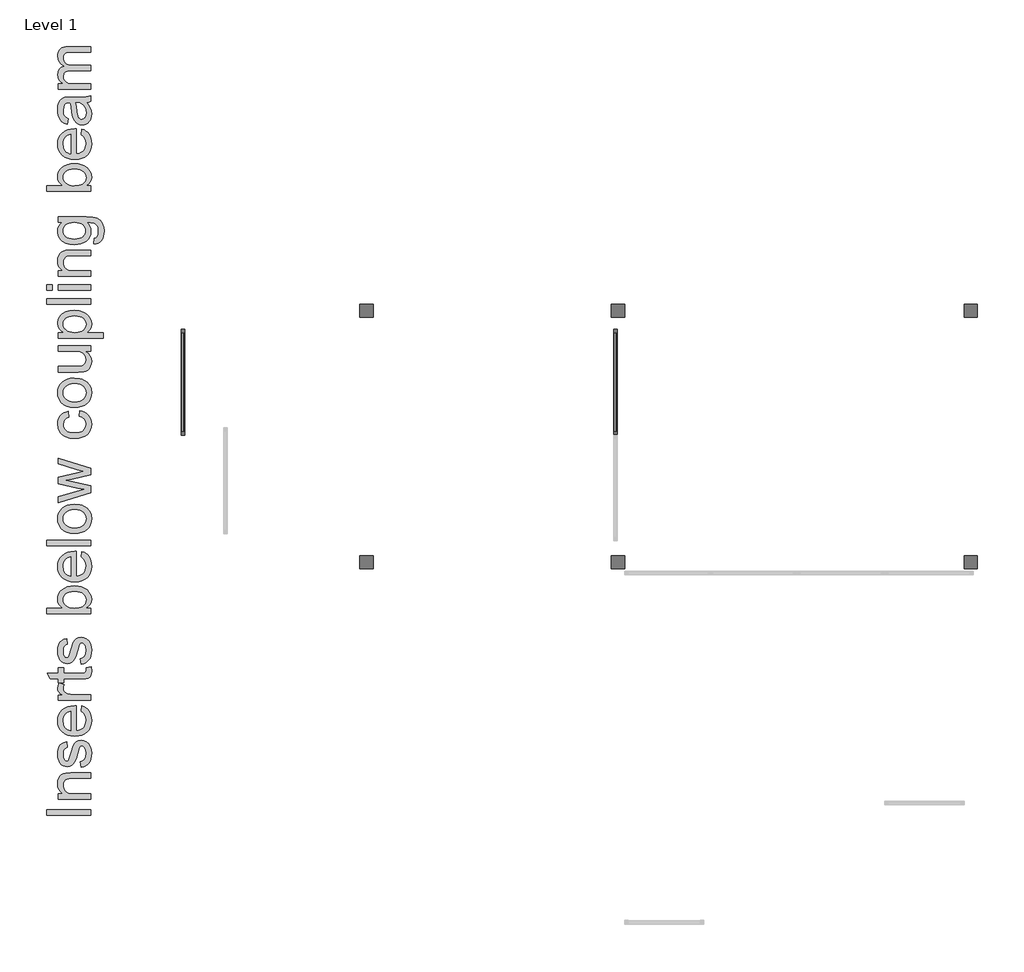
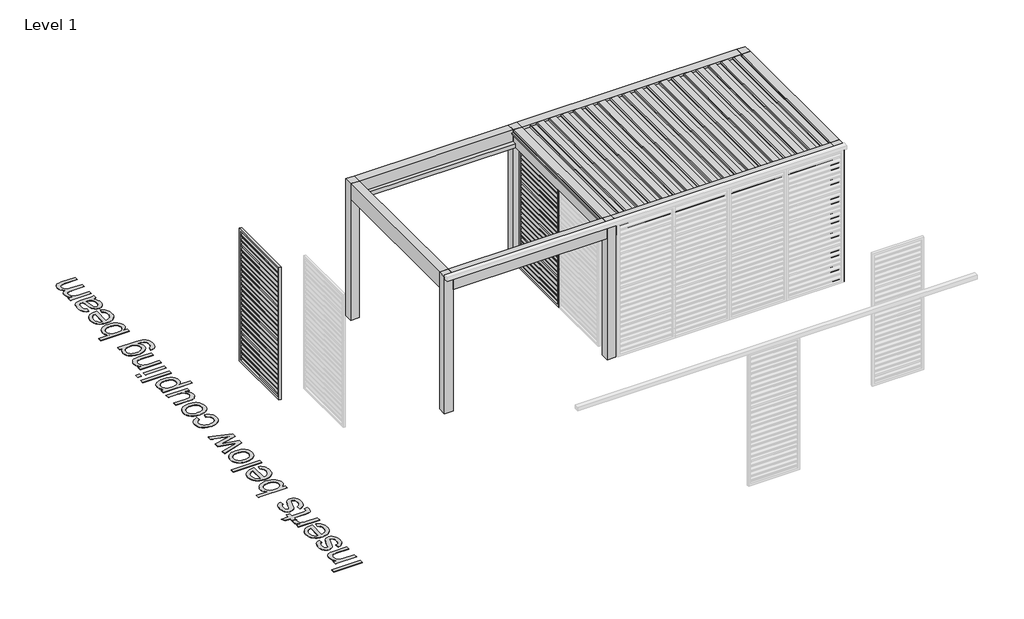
# One storey, part 31 of 80: 4 proxies.
"""IFC4 building model written with IfcOpenShell, lengths in millimetres."""

from ifc_helpers import new_model, si_unit, origin, origin_with_axes, place, context, project, spatial, polyline, outline, extrude, transform, mapped, element, save
from components import generic_models_f342dfb5, generic_models_106a7d22

model = new_model("IFC4")

# Units and contexts
model_context = context("Model", 3, world=origin())
ifc_project = project(units=[si_unit("LENGTHUNIT", "METRE", prefix="MILLI")], contexts=[model_context])

# Site, building, storey
site = spatial("IfcSite", under=ifc_project)
building = spatial("IfcBuilding", under=site)
storey = spatial("IfcBuildingStorey", under=building, Name="Level 1", Elevation=0.0)

# Proxies
placement = place(None, origin())
generic_models_shape = generic_models_f342dfb5(model_context)
element("IfcBuildingElementProxy", 1, Name="Renson_Amani_Patio_Cover : Renson_Amani_Patio_Cover", ObjectType="Renson_Amani_Patio_Cover : Renson_Amani_Patio_Cover", at=placement, inside=storey, context=model_context, shape_type="MappedRepresentation", body=[
    mapped(generic_models_shape, transform((446460.5749426, -39559.318181, 0.0), x_axis=(1.0, 0.0, 0.0), y_axis=(0.0, 1.0, 0.0), z_axis=(0.0, 0.0, 1.0))),
])
generic_models_2_shape = generic_models_106a7d22(model_context)
element("IfcBuildingElementProxy", 2, Name="Renson_Amani_Loggia_Paro_Aluminium_Fix : Renson_Amani_Loggia_Paro_Aluminium_Fix", ObjectType="Renson_Amani_Loggia_Paro_Aluminium_Fix : Renson_Amani_Loggia_Paro_Aluminium_Fix", at=placement, inside=storey, context=model_context, shape_type="MappedRepresentation", body=[
    mapped(generic_models_2_shape, transform((442956.3699543, -38944.9696571, 0.0), x_axis=(0.0, -1.0, 0.0), y_axis=(1.0, 0.0, 0.0), z_axis=(0.0, 0.0, 1.0))),
])
element("IfcBuildingElementProxy", 3, Name="Renson_Amani_Loggia_Paro_Aluminium_Fix : Renson_Amani_Loggia_Paro_Aluminium_Fix", ObjectType="Renson_Amani_Loggia_Paro_Aluminium_Fix : Renson_Amani_Loggia_Paro_Aluminium_Fix", at=placement, inside=storey, context=model_context, shape_type="MappedRepresentation", body=[
    mapped(generic_models_2_shape, transform((447856.3699543, -38944.9696571, 0.0), x_axis=(0.0, -1.0, 0.0), y_axis=(1.0, 0.0, 0.0), z_axis=(0.0, 0.0, 1.0))),
])
element("IfcBuildingElementProxy", 4, Name="500mm Arial", ObjectType="500mm Arial", at=placement, inside=storey, context=model_context, shape_type="SweptSolid", body=[
    extrude(outline(polyline([(441912.2046948, -43851.4920703), (441409.9231441, -43851.4920703), (441409.9231441, -43788.7068764), (441912.2046948, -43788.7068764), (441912.2046948, -43851.4920703)])), origin_with_axes(), (0.0, 0.0, 1.0), 5.0),
    extrude(outline(polyline([(441912.2046948, -43670.984638), (441543.341681, -43670.984638), (441543.341681, -43608.1994441), (441594.8451603, -43608.1994441), (441568.8788228, -43586.3871075), (441550.3314389, -43560.1908438), (441539.2030085, -43529.6106529), (441535.4935317, -43494.646535), (441538.482573, -43463.6984621), (441547.4496966, -43435.3562201), (441561.2759282, -43411.7198019), (441578.8422935, -43394.8892006), (441600.1028071, -43383.4695303), (441625.0114839, -43376.0659052), (441685.7120131, -43372.7549672), (441912.2046948, -43372.7549672), (441912.2046948, -43435.5401611), (441694.173299, -43435.5401611), (441661.7077129, -43437.3489142), (441638.6231177, -43442.7751736), (441622.0837564, -43452.7846296), (441609.2538718, -43468.3429723), (441601.0225121, -43488.2852421), (441598.2787256, -43511.4464794), (441599.8192314, -43530.5111974), (441604.440749, -43548.2193505), (441612.1432783, -43564.5709388), (441622.9268193, -43579.5659622), (441638.0176453, -43592.0931105), (441658.6420296, -43601.0410736), (441684.7999723, -43606.4098515), (441716.4914734, -43608.1994441), (441912.2046948, -43608.1994441), (441912.2046948, -43670.984638)])), origin_with_axes(), (0.0, 0.0, 1.0), 5.0),
    extrude(outline(polyline([(441802.3306056, -43309.9697734), (441794.4824563, -43247.1845795), (441821.337842, -43237.2824225), (441841.0808424, -43218.1219019), (441853.2209482, -43189.5803905), (441857.2676502, -43151.5352608), (441853.5581734, -43113.9499836), (441842.4297431, -43087.5237936), (441826.3042489, -43071.8888088), (441807.6035808, -43066.6771472), (441791.6007141, -43071.9194657), (441779.3992945, -43087.646421), (441761.4957041, -43152.2710248), (441744.9256859, -43209.5686455), (441730.7775575, -43246.8166975), (441715.3418421, -43270.7443556), (441694.909063, -43288.0807947), (441670.7821355, -43298.6114168), (441644.263975, -43302.1216241), (441619.9377781, -43299.3011955), (441597.4816479, -43290.8399096), (441577.7846328, -43277.5041873), (441561.7357807, -43260.0604494), (441551.6343543, -43242.7240103), (441543.15774, -43220.1452529), (441537.4095838, -43194.0409596), (441535.4935317, -43166.1279133), (441538.5745435, -43125.262355), (441547.8175786, -43089.7310856), (441562.3182606, -43061.1589173), (441581.1722128, -43041.1706622), (441605.7743212, -43027.9269104), (441637.5194717, -43019.5882519), (441645.367621, -43082.3734457), (441625.6092921, -43090.298237), (441610.7253998, -43105.9792071), (441601.3903941, -43129.56964), (441598.2787256, -43161.22282), (441601.2524384, -43197.2752555), (441610.1735768, -43221.3102125), (441623.0494466, -43234.8298759), (441637.8873537, -43239.3364303), (441647.5442561, -43237.4663635), (441656.1588262, -43231.8561631), (441663.8536912, -43222.2605744), (441670.0157146, -43208.4343427), (441683.3820938, -43154.3556894), (441712.9352807, -43062.2012496), (441727.0680807, -43037.8597243), (441746.4125423, -43019.4043109), (441771.0299792, -43007.7700428), (441800.9817049, -43003.8919534), (441831.9451062, -43008.4444931), (441861.0690975, -43022.1021122), (441886.0697447, -43044.3436444), (441904.6631139, -43074.6479238), (441916.2054115, -43111.2521823), (441920.052844, -43152.3936521), (441918.1981056, -43186.1851462), (441912.6338905, -43215.7000121), (441903.3601985, -43240.9382498), (441890.3770298, -43261.8998593), (441873.7456979, -43279.0217005), (441853.5275166, -43292.7406333), (441829.7224858, -43303.0566576), (441802.3306056, -43309.9697734)])), origin_with_axes(), (0.0, 0.0, 1.0), 5.0),
    extrude(outline(polyline([(441802.3306056, -42675.0054497), (441810.1787548, -42613.4465292), (441834.8345127, -42622.8850016), (441856.562543, -42635.6267478), (441875.3628458, -42651.6717677), (441891.2354211, -42671.0200614), (441903.8430436, -42693.4723594), (441912.8484883, -42718.8293924), (441918.2517551, -42747.0911602), (441920.052844, -42778.257663), (441916.9450076, -42817.2148335), (441907.6214983, -42851.9260326), (441892.0823161, -42882.3912603), (441870.327461, -42908.6105166), (441842.9624055, -42929.6947535), (441810.5926221, -42944.7549227), (441773.2181106, -42953.7910242), (441730.8388712, -42956.803058), (441687.0225927, -42953.7603673), (441648.4026474, -42944.6322953), (441614.9790353, -42929.418842), (441586.7517564, -42908.1200073), (441564.3262831, -42881.9697288), (441548.3080879, -42852.201944), (441538.6971708, -42818.816653), (441535.4935317, -42781.8138556), (441538.6895066, -42746.0028427), (441548.2774311, -42713.6177308), (441564.2573052, -42684.65852), (441586.6291291, -42659.1252102), (441614.7950943, -42638.282396), (441648.1573928, -42623.3946715), (441686.7160244, -42614.4620368), (441730.4709892, -42611.4844919), (441747.393561, -42611.8523739), (441747.393561, -42894.0178642), (441772.4478577, -42890.3811974), (441794.3904858, -42883.1500169), (441813.2214455, -42872.3243228), (441828.9407366, -42857.904115), (441841.3337613, -42840.6864712), (441850.1859218, -42821.468469), (441855.4972181, -42800.2501085), (441857.2676502, -42777.0313897), (441853.9873691, -42743.6154418), (441844.1465257, -42715.4724692), (441827.1319834, -42692.6024718), (441802.3306056, -42675.0054497)]), holes=[polyline([(441684.6083671, -42894.0178642), (441684.6083671, -42674.2696857), (441651.4376739, -42682.7616284), (441627.7092852, -42699.4082887), (441614.8334154, -42716.5301299), (441605.6363655, -42736.0125472), (441600.1181356, -42757.8555407), (441598.2787256, -42782.0591103), (441604.1495091, -42824.3808682), (441611.4879885, -42842.7941284), (441621.7618596, -42859.375643), (441634.4959416, -42873.290013), (441649.2150535, -42883.7018399), (441665.9191953, -42890.6111236), (441684.6083671, -42894.0178642)])]), origin_with_axes(), (0.0, 0.0, 1.0), 5.0),
    extrude(outline(polyline([(441859.8428242, -42179.8362842), (441914.0441048, -42171.988135), (441920.052844, -42218.954403), (441917.4470132, -42249.0900698), (441909.6295208, -42271.5615283), (441897.5813855, -42287.4417678), (441882.2836259, -42297.8037773), (441856.01072, -42303.5059482), (441811.0371461, -42305.4066719), (441606.1268748, -42305.4066719), (441606.1268748, -42352.4955673), (441554.8686502, -42352.4955673), (441543.341681, -42352.4955673), (441543.341681, -42305.4066719), (441453.7011015, -42305.4066719), (441416.7902746, -42242.621478), (441543.341681, -42242.621478), (441543.341681, -42179.8362842), (441606.1268748, -42179.8362842), (441606.1268748, -42242.621478), (441809.1977362, -42242.621478), (441841.5713517, -42239.3105401), (441853.0370072, -42228.5806486), (441857.2676502, -42207.1821792), (441859.8428242, -42179.8362842)])), origin_with_axes(), (0.0, 0.0, 1.0), 5.0),
    extrude(outline(polyline([(441912.2046948, -42548.699298), (441543.341681, -42548.699298), (441543.341681, -42493.7622534), (441597.9108436, -42493.7622534), (441566.272992, -42473.46743), (441547.6336376, -42454.7667619), (441538.5285582, -42436.0047802), (441535.4935317, -42415.5260158), (441540.3373113, -42384.2560462), (441554.8686502, -42352.4955673), (441611.1545954, -42373.464841), (441601.497693, -42395.5377607), (441598.2787256, -42417.6106804), (441601.3750657, -42436.3573337), (441610.6640861, -42453.1112929), (441625.4406796, -42466.6462847), (441644.999739, -42475.7360356), (441680.0711558, -42483.369587), (441718.3308833, -42485.9141042), (441912.2046948, -42485.9141042), (441912.2046948, -42548.699298)])), origin_with_axes(), (0.0, 0.0, 1.0), 5.0),
    extrude(outline(polyline([(441802.3306056, -42140.595538), (441794.4824563, -42077.8103442), (441821.337842, -42067.9081872), (441841.0808424, -42048.7476666), (441853.2209482, -42020.2061551), (441857.2676502, -41982.1610255), (441853.5581734, -41944.5757483), (441842.4297431, -41918.1495583), (441826.3042489, -41902.5145735), (441807.6035808, -41897.3029119), (441791.6007141, -41902.5452303), (441779.3992945, -41918.2721856), (441761.4957041, -41982.8967894), (441744.9256859, -42040.1944102), (441730.7775575, -42077.4424622), (441715.3418421, -42101.3701203), (441694.909063, -42118.7065593), (441670.7821355, -42129.2371814), (441644.263975, -42132.7473888), (441619.9377781, -42129.9269602), (441597.4816479, -42121.4656743), (441577.7846328, -42108.129952), (441561.7357807, -42090.686214), (441551.6343543, -42073.349775), (441543.15774, -42050.7710176), (441537.4095838, -42024.6667243), (441535.4935317, -41996.7536779), (441538.5745435, -41955.8881196), (441547.8175786, -41920.3568503), (441562.3182606, -41891.784682), (441581.1722128, -41871.7964269), (441605.7743212, -41858.5526751), (441637.5194717, -41850.2140165), (441645.367621, -41912.9992104), (441625.6092921, -41920.9240017), (441610.7253998, -41936.6049717), (441601.3903941, -41960.1954047), (441598.2787256, -41991.8485847), (441601.2524384, -42027.9010202), (441610.1735768, -42051.9359772), (441623.0494466, -42065.4556405), (441637.8873537, -42069.962195), (441647.5442561, -42068.0921282), (441656.1588262, -42062.4819277), (441663.8536912, -42052.886339), (441670.0157146, -42039.0601074), (441683.3820938, -41984.9814541), (441712.9352807, -41892.8270143), (441727.0680807, -41868.4854889), (441746.4125423, -41850.0300755), (441771.0299792, -41838.3958074), (441800.9817049, -41834.5177181), (441831.9451062, -41839.0702577), (441861.0690975, -41852.7278768), (441886.0697447, -41874.9694091), (441904.6631139, -41905.2736885), (441916.2054115, -41941.877947), (441920.052844, -41983.0194168), (441918.1981056, -42016.8109109), (441912.6338905, -42046.3257768), (441903.3601985, -42071.5640145), (441890.3770298, -42092.525624), (441873.7456979, -42109.6474652), (441853.5275166, -42123.3663979), (441829.7224858, -42133.6824222), (441802.3306056, -42140.595538)])), origin_with_axes(), (0.0, 0.0, 1.0), 5.0),
    extrude(outline(polyline([(441912.2046948, -41504.8954504), (441912.2046948, -41567.6806442), (441409.9231441, -41567.6806442), (441409.9231441, -41504.8954504), (441596.1940609, -41504.8954504), (441569.6375794, -41484.2480734), (441550.668664, -41460.933552), (441539.2873148, -41434.951886), (441535.4935317, -41406.3030757), (441538.9117686, -41373.9601169), (441549.1664792, -41343.3952545), (441565.6138701, -41316.3559278), (441587.6101477, -41294.5895765), (441614.9407143, -41277.5290489), (441647.3909719, -41264.6071939), (441683.6120201, -41256.4678047), (441722.254958, -41253.754675), (441766.8453215, -41256.5636073), (441806.0707392, -41264.9904043), (441839.9312112, -41279.0350659), (441868.4267374, -41298.6975921), (441891.013159, -41322.2995213), (441907.1463174, -41348.162392), (441916.8262124, -41376.2862041), (441920.052844, -41406.6709577), (441915.891179, -41436.2624657), (441903.4061838, -41462.4970504), (441882.5978584, -41485.374712), (441853.4662029, -41504.8954504), (441912.2046948, -41504.8954504)]), holes=[polyline([(441725.1980139, -41504.8954504), (441777.5598846, -41500.6034938), (441797.3948555, -41495.238548), (441812.9991834, -41487.7276239), (441832.3666376, -41472.5141706), (441846.2005335, -41454.8328422), (441854.500871, -41434.6836388), (441857.2676502, -41412.0665603), (441855.2289708, -41393.2892501), (441849.1129326, -41375.8301837), (441838.9195357, -41359.6893612), (441824.64878, -41344.8667825), (441806.3389865, -41332.4737578), (441784.0284763, -41323.6215973), (441757.7172495, -41318.3103009), (441727.4053059, -41316.5398688), (441696.5185467, -41318.237491), (441669.954401, -41323.3303573), (441647.7128687, -41331.818468), (441629.7939498, -41343.7018228), (441616.0060392, -41357.9917391), (441606.1575316, -41373.6995338), (441600.2484271, -41390.8252071), (441598.2787256, -41409.368759), (441600.317405, -41428.1460691), (441606.4334431, -41445.6051355), (441616.6268401, -41461.745958), (441630.8975958, -41476.5685367), (441649.0234483, -41488.9615615), (441670.7821355, -41497.813722), (441696.1736573, -41503.1250183), (441725.1980139, -41504.8954504)])]), origin_with_axes(), (0.0, 0.0, 1.0), 5.0),
    extrude(outline(polyline([(441802.3306056, -40924.8681713), (441810.1787548, -40863.3092508), (441834.8345127, -40872.7477232), (441856.562543, -40885.4894694), (441875.3628458, -40901.5344894), (441891.2354211, -40920.882783), (441903.8430436, -40943.3350811), (441912.8484883, -40968.692114), (441918.2517551, -40996.9538818), (441920.052844, -41028.1203846), (441916.9450076, -41067.0775551), (441907.6214983, -41101.7887542), (441892.0823161, -41132.2539819), (441870.327461, -41158.4732383), (441842.9624055, -41179.5574751), (441810.5926221, -41194.6176443), (441773.2181106, -41203.6537458), (441730.8388712, -41206.6657796), (441687.0225927, -41203.623089), (441648.4026474, -41194.4950169), (441614.9790353, -41179.2815636), (441586.7517564, -41157.9827289), (441564.3262831, -41131.8324504), (441548.3080879, -41102.0646657), (441538.6971708, -41068.6793746), (441535.4935317, -41031.6765772), (441538.6895066, -40995.8655643), (441548.2774311, -40963.4804524), (441564.2573052, -40934.5212416), (441586.6291291, -40908.9879319), (441614.7950943, -40888.1451176), (441648.1573928, -40873.2573931), (441686.7160244, -40864.3247584), (441730.4709892, -40861.3472135), (441747.393561, -40861.7150955), (441747.393561, -41143.8805858), (441772.4478577, -41140.243919), (441794.3904858, -41133.0127385), (441813.2214455, -41122.1870444), (441828.9407366, -41107.7668366), (441841.3337613, -41090.5491928), (441850.1859218, -41071.3311906), (441855.4972181, -41050.1128302), (441857.2676502, -41026.8941113), (441853.9873691, -40993.4781634), (441844.1465257, -40965.3351908), (441827.1319834, -40942.4651934), (441802.3306056, -40924.8681713)]), holes=[polyline([(441684.6083671, -41143.8805858), (441684.6083671, -40924.1324073), (441651.4376739, -40932.62435), (441627.7092852, -40949.2710103), (441614.8334154, -40966.3928515), (441605.6363655, -40985.8752688), (441600.1181356, -41007.7182623), (441598.2787256, -41031.9218319), (441604.1495091, -41074.2435898), (441611.4879885, -41092.6568501), (441621.7618596, -41109.2383646), (441634.4959416, -41123.1527346), (441649.2150535, -41133.5645615), (441665.9191953, -41140.4738452), (441684.6083671, -41143.8805858)])]), origin_with_axes(), (0.0, 0.0, 1.0), 5.0),
    extrude(outline(polyline([(441912.2046948, -40798.5620196), (441409.9231441, -40798.5620196), (441409.9231441, -40735.7768258), (441912.2046948, -40735.7768258), (441912.2046948, -40798.5620196)])), origin_with_axes(), (0.0, 0.0, 1.0), 5.0),
    extrude(outline(polyline([(441727.7731879, -40657.2953335), (441680.002178, -40653.9000892), (441638.8377156, -40643.7143565), (441604.2798006, -40626.7381353), (441576.3284332, -40602.9714255), (441558.4631638, -40579.0437674), (441545.7022571, -40552.6329059), (441538.0457131, -40523.7388408), (441535.4935317, -40492.3615723), (441538.6013682, -40457.7231832), (441547.9248775, -40426.4033963), (441563.4640597, -40398.4022115), (441585.2189148, -40373.7196289), (441612.4536787, -40353.5742575), (441644.4325876, -40339.1847066), (441681.1556413, -40330.550976), (441722.62284, -40327.6730658), (441786.0518273, -40332.7621001), (441812.0871427, -40339.1233929), (441834.3363392, -40348.0292029), (441853.5543413, -40359.368399), (441870.4960736, -40373.0298501), (441885.1615361, -40389.0135564), (441897.5507287, -40407.3195178), (441914.4273152, -40448.0471203), (441920.052844, -40492.3615723), (441916.9565039, -40527.5057992), (441907.6674835, -40559.116826), (441892.1857829, -40587.1946529), (441870.511402, -40611.7392798), (441843.0122229, -40631.6700533), (441810.0561275, -40645.9063201), (441771.6431158, -40654.4480801), (441727.7731879, -40657.2953335)]), holes=[polyline([(441727.6505606, -40594.5101396), (441758.104292, -40592.6937223), (441784.4730004, -40587.2444702), (441806.7566858, -40578.1623835), (441824.9553483, -40565.447462), (441839.0919804, -40549.9810898), (441849.1895747, -40532.6446508), (441855.2481313, -40513.438145), (441857.2676502, -40492.3615723), (441855.236635, -40471.3922986), (441849.1435895, -40452.2624348), (441838.9885136, -40434.9719811), (441824.7714073, -40419.5209373), (441806.3926359, -40406.8060158), (441783.7525648, -40397.7239291), (441756.8511939, -40392.274677), (441725.6885232, -40390.4582597), (441696.2004821, -40392.2861733), (441670.5215524, -40397.7699143), (441648.6517342, -40406.9094826), (441630.5910275, -40419.7048783), (441616.4543954, -40435.2134036), (441606.3568011, -40452.4923611), (441600.2982445, -40471.5417507), (441598.2787256, -40492.3615723), (441600.2905802, -40513.438145), (441606.3261442, -40532.6446508), (441616.3854175, -40549.9810898), (441630.4684002, -40565.447462), (441648.6134132, -40578.1623835), (441670.8587776, -40587.2444702), (441697.2044934, -40592.6937223), (441727.6505606, -40594.5101396)])]), origin_with_axes(), (0.0, 0.0, 1.0), 5.0),
    extrude(outline(polyline([(441912.2046948, -40195.8486842), (441543.341681, -40308.0526927), (441543.341681, -40242.8149523), (441758.5526482, -40179.1713671), (441835.4399851, -40160.1641307), (441761.3730768, -40144.5904595), (441543.341681, -40093.9453715), (441543.341681, -40019.1426992), (441760.7599401, -39968.7428659), (441827.8370906, -39954.8859774), (441757.0811202, -39935.0203496), (441543.341681, -39871.2541371), (441543.341681, -39805.771142), (441912.2046948, -39918.8335418), (441912.2046948, -39994.7398602), (441695.8900816, -40042.9324015), (441628.4450492, -40056.9119174), (441912.2046948, -40119.0839745), (441912.2046948, -40195.8486842)])), origin_with_axes(), (0.0, 0.0, 1.0), 5.0),
    extrude(outline(polyline([(441778.7861579, -39330.9581135), (441786.6343071, -39268.1729197), (441816.260304, -39275.0017292), (441842.4757283, -39285.6779713), (441865.2805799, -39300.2016459), (441884.6748588, -39318.572753), (441900.1527274, -39340.0172077), (441911.2083477, -39363.7609248), (441917.84172, -39389.8039044), (441920.052844, -39418.1461464), (441916.9680002, -39453.3593511), (441907.7134688, -39484.9320569), (441892.2892497, -39512.8642638), (441870.695343, -39537.1559718), (441843.3379517, -39556.8184981), (441810.6232789, -39570.8631597), (441772.5513245, -39579.2899566), (441729.1220885, -39582.0988889), (441673.2500105, -39577.3010946), (441624.8275429, -39562.9077115), (441603.8774297, -39552.0551926), (441585.7247525, -39538.6888135), (441570.3695113, -39522.808574), (441557.8117061, -39504.4144743), (441541.0730753, -39463.4109602), (441535.4935317, -39419.0045377), (441537.4095838, -39391.1489729), (441543.15774, -39365.9528883), (441552.7380003, -39343.416284), (441566.1503647, -39323.53916), (441583.0882649, -39306.6587413), (441603.2451325, -39293.1122533), (441626.6209676, -39282.8996958), (441653.2157702, -39276.0210689), (441661.0639194, -39338.8062628), (441633.6720392, -39350.1952762), (441614.0363377, -39367.9302541), (441602.2181286, -39391.0301777), (441598.2787256, -39418.5140284), (441600.2177703, -39439.847352), (441606.0349043, -39459.0883468), (441615.7301277, -39476.2370127), (441629.3034405, -39491.2933498), (441647.0690752, -39503.5522508), (441669.3412643, -39512.3086088), (441696.1200079, -39517.5624235), (441727.4053059, -39519.3136951), (441759.1619527, -39517.6007445), (441786.2510967, -39512.4618929), (441808.6727379, -39503.8971402), (441826.4268763, -39491.9064864), (441839.9197149, -39477.1490535), (441849.5574567, -39460.2839633), (441855.3401018, -39441.3112158), (441857.2676502, -39420.230811), (441852.4545274, -39387.7192397), (441838.0151591, -39361.0631235), (441827.0936624, -39350.2834146), (441813.5816633, -39341.6726767), (441778.7861579, -39330.9581135)])), origin_with_axes(), (0.0, 0.0, 1.0), 5.0),
    extrude(outline(polyline([(441727.7731879, -39228.9321736), (441680.002178, -39225.5369293), (441638.8377156, -39215.3511966), (441604.2798006, -39198.3749753), (441576.3284332, -39174.6082656), (441558.4631638, -39150.6806075), (441545.7022571, -39124.2697459), (441538.0457131, -39095.3756809), (441535.4935317, -39063.9984124), (441538.6013682, -39029.3600233), (441547.9248775, -38998.0402363), (441563.4640597, -38970.0390515), (441585.2189148, -38945.3564689), (441612.4536787, -38925.2110976), (441644.4325876, -38910.8215466), (441681.1556413, -38902.1878161), (441722.62284, -38899.3099059), (441786.0518273, -38904.3989401), (441812.0871427, -38910.760233), (441834.3363392, -38919.6660429), (441853.5543413, -38931.005239), (441870.4960736, -38944.6666902), (441885.1615361, -38960.6503965), (441897.5507287, -38978.9563578), (441914.4273152, -39019.6839604), (441920.052844, -39063.9984124), (441916.9565039, -39099.1426392), (441907.6674835, -39130.7536661), (441892.1857829, -39158.8314929), (441870.511402, -39183.3761198), (441843.0122229, -39203.3068933), (441810.0561275, -39217.5431601), (441771.6431158, -39226.0849202), (441727.7731879, -39228.9321736)]), holes=[polyline([(441727.6505606, -39166.1469797), (441758.104292, -39164.3305624), (441784.4730004, -39158.8813103), (441806.7566858, -39149.7992235), (441824.9553483, -39137.0843021), (441839.0919804, -39121.6179299), (441849.1895747, -39104.2814909), (441855.2481313, -39085.074985), (441857.2676502, -39063.9984124), (441855.236635, -39043.0291387), (441849.1435895, -39023.8992749), (441838.9885136, -39006.6088211), (441824.7714073, -38991.1577773), (441806.3926359, -38978.4428559), (441783.7525648, -38969.3607691), (441756.8511939, -38963.9115171), (441725.6885232, -38962.0950997), (441696.2004821, -38963.9230134), (441670.5215524, -38969.4067544), (441648.6517342, -38978.5463227), (441630.5910275, -38991.3417183), (441616.4543954, -39006.8502437), (441606.3568011, -39024.1292012), (441600.2982445, -39043.1785907), (441598.2787256, -39063.9984124), (441600.2905802, -39085.074985), (441606.3261442, -39104.2814909), (441616.3854175, -39121.6179299), (441630.4684002, -39137.0843021), (441648.6134132, -39149.7992235), (441670.8587776, -39158.8813103), (441697.2044934, -39164.3305624), (441727.6505606, -39166.1469797)])]), origin_with_axes(), (0.0, 0.0, 1.0), 5.0),
    extrude(outline(polyline([(441912.2046948, -38593.2320859), (441848.8063643, -38593.2320859), (441879.9766992, -38615.9487991), (441902.2412241, -38642.4056459), (441915.5999391, -38672.6026263), (441920.052844, -38706.5397404), (441916.9258471, -38737.1199312), (441907.5448562, -38765.5848006), (441893.442713, -38789.4664735), (441876.1522593, -38806.2970748), (441855.1523287, -38817.6247745), (441829.9217552, -38824.9977428), (441771.5511453, -38828.6765628), (441543.341681, -38828.6765628), (441543.341681, -38765.891369), (441741.9979584, -38765.891369), (441806.0094255, -38762.0899217), (441827.3619097, -38752.938857), (441843.5947027, -38737.257887), (441853.8494133, -38716.0893439), (441857.2676502, -38690.4755599), (441853.7727712, -38663.390248), (441843.2881344, -38638.0523756), (441826.7794298, -38617.159744), (441805.2123479, -38603.4101544), (441775.6744893, -38595.776603), (441735.2534551, -38593.2320859), (441543.341681, -38593.2320859), (441543.341681, -38530.446892), (441912.2046948, -38530.446892), (441912.2046948, -38593.2320859)])), origin_with_axes(), (0.0, 0.0, 1.0), 5.0),
    extrude(outline(polyline([(442053.471381, -38444.1172505), (441543.341681, -38444.1172505), (441543.341681, -38381.3320567), (441604.9006015, -38381.3320567), (441574.5350085, -38360.8532923), (441552.8452992, -38337.9219812), (441539.8314736, -38311.1892229), (441535.4935317, -38279.3061167), (441537.011045, -38257.4094737), (441541.5635847, -38236.8464031), (441549.1511508, -38217.6169046), (441559.7737434, -38199.7209784), (441573.155451, -38183.549499), (441589.020362, -38169.4933411), (441628.1997945, -38147.7269897), (441674.4609554, -38134.5752084), (441724.9527593, -38130.1912813), (441778.6482021, -38135.1423598), (441826.6721309, -38149.9955954), (441847.947973, -38161.0167268), (441866.5873274, -38174.275807), (441882.5901942, -38189.7728361), (441895.9565733, -38207.5078139), (441914.0287764, -38246.2120655), (441920.052844, -38286.9090112), (441916.0214705, -38315.7724194), (441903.9273499, -38341.5394875), (441885.6712059, -38363.5970788), (441863.1537621, -38381.3320567), (442053.471381, -38381.3320567), (442053.471381, -38444.1172505)]), holes=[polyline([(441730.7162438, -38381.3320567), (441760.974538, -38379.6344345), (441787.0021891, -38374.5415682), (441808.7991973, -38366.0534576), (441826.3655626, -38354.1701027), (441839.8852259, -38339.864858), (441849.5421283, -38324.111078), (441855.3362697, -38306.9087626), (441857.2676502, -38288.2579119), (441855.2672918, -38269.3388139), (441849.2662168, -38251.8222659), (441839.2644251, -38235.7082681), (441825.2619166, -38220.9968204), (441807.0594221, -38208.7379194), (441784.457672, -38199.9815615), (441757.4566664, -38194.7277467), (441726.0564052, -38192.9764751), (441696.0586942, -38194.6855936), (441670.0770283, -38199.8129489), (441648.1114075, -38208.3585411), (441630.1618318, -38220.3223701), (441616.2129729, -38234.6621037), (441606.2495021, -38250.3354095), (441600.2714197, -38267.3422876), (441598.2787256, -38285.6827379), (441600.3978792, -38303.9657067), (441606.7553399, -38321.168022), (441617.3511078, -38337.2896841), (441632.1851828, -38352.3306927), (441651.0582956, -38365.0187894), (441673.7711767, -38374.0817157), (441700.3238261, -38379.5194714), (441730.7162438, -38381.3320567)])]), origin_with_axes(), (0.0, 0.0, 1.0), 5.0),
    extrude(outline(polyline([(441912.2046948, -38059.5579382), (441409.9231441, -38059.5579382), (441409.9231441, -37996.7727444), (441912.2046948, -37996.7727444), (441912.2046948, -38059.5579382)])), origin_with_axes(), (0.0, 0.0, 1.0), 5.0),
    extrude(outline(polyline([(441912.2046948, -37902.5949536), (441543.341681, -37902.5949536), (441543.341681, -37839.8097598), (441912.2046948, -37839.8097598), (441912.2046948, -37902.5949536)])), origin_with_axes(), (0.0, 0.0, 1.0), 5.0),
    extrude(outline(polyline([(441472.7083379, -37902.5949536), (441409.9231441, -37902.5949536), (441409.9231441, -37839.8097598), (441472.7083379, -37839.8097598), (441472.7083379, -37902.5949536)])), origin_with_axes(), (0.0, 0.0, 1.0), 5.0),
    extrude(outline(polyline([(441912.2046948, -37745.631969), (441543.341681, -37745.631969), (441543.341681, -37682.8467752), (441594.8451603, -37682.8467752), (441568.8788228, -37661.0344385), (441550.3314389, -37634.8381748), (441539.2030085, -37604.2579839), (441535.4935317, -37569.293866), (441538.482573, -37538.3457931), (441547.4496966, -37510.0035511), (441561.2759282, -37486.3671329), (441578.8422935, -37469.5365316), (441600.1028071, -37458.1168614), (441625.0114839, -37450.7132362), (441685.7120131, -37447.4022982), (441912.2046948, -37447.4022982), (441912.2046948, -37510.1874921), (441694.173299, -37510.1874921), (441661.7077129, -37511.9962452), (441638.6231177, -37517.4225047), (441622.0837564, -37527.4319606), (441609.2538718, -37542.9903033), (441601.0225121, -37562.9325731), (441598.2787256, -37586.0938104), (441599.8192314, -37605.1585284), (441604.440749, -37622.8666815), (441612.1432783, -37639.2182698), (441622.9268193, -37654.2132932), (441638.0176453, -37666.7404416), (441658.6420296, -37675.6884047), (441684.7999723, -37681.0571825), (441716.4914734, -37682.8467752), (441912.2046948, -37682.8467752), (441912.2046948, -37745.631969)])), origin_with_axes(), (0.0, 0.0, 1.0), 5.0),
    extrude(outline(polyline([(441943.5972917, -37376.7689552), (441951.445441, -37313.9837613), (441971.065814, -37307.0553171), (441984.5548205, -37293.6276243), (441995.0394574, -37267.2320911), (441998.5343363, -37232.6818404), (441994.5796049, -37195.8323272), (441982.7154105, -37168.4251186), (441963.7081741, -37149.4178821), (441938.3243165, -37137.7682856), (441911.3156466, -37134.3653772), (441865.1157994, -37133.476329), (441885.7171912, -37154.3689607), (441900.432471, -37177.6834821), (441909.2616388, -37203.4198934), (441912.2046948, -37231.5781944), (441908.7787937, -37266.0019857), (441898.5010905, -37296.3100971), (441881.3715851, -37322.5025288), (441857.3902775, -37344.5792806), (441828.6188398, -37362.0958285), (441797.118944, -37374.6076484), (441762.89059, -37382.1147404), (441725.9337779, -37384.6171044), (441675.2427047, -37380.1258784), (441628.6289902, -37366.6522003), (441589.127661, -37344.6712511), (441573.1822757, -37330.6687426), (441559.7737434, -37314.6582116), (441549.1511508, -37296.8964091), (441541.5635847, -37277.6400859), (441537.011045, -37256.8892421), (441535.4935317, -37234.6438777), (441538.927097, -37205.282296), (441549.2277929, -37178.6338439), (441566.3956193, -37154.6985216), (441590.4305764, -37133.476329), (441543.341681, -37133.476329), (441543.341681, -37070.6911352), (441861.8048615, -37070.6911352), (441935.3352753, -37074.9830918), (441962.6850023, -37080.3480376), (441983.7577429, -37087.8589616), (442015.8707754, -37110.0391802), (442040.4728838, -37142.2441832), (442049.5932916, -37161.9297021), (442056.1078686, -37183.7688634), (442061.3195302, -37233.9081137), (442059.4839523, -37264.6684134), (442053.9772187, -37292.3247089), (442044.7993293, -37316.8769999), (442031.9502842, -37338.3252867), (442015.414755, -37355.6502294), (441995.1774131, -37367.8324884), (441971.2382587, -37374.8720636), (441943.5972917, -37376.7689552)]), holes=[polyline([(441721.6418213, -37321.8319106), (441752.6856967, -37320.1572811), (441779.230682, -37315.1333926), (441801.2767769, -37306.7602451), (441818.8239817, -37295.0378386), (441832.2095214, -37280.7862434), (441841.7706211, -37264.8255297), (441847.507281, -37247.1556976), (441849.419501, -37227.7767471), (441847.5187773, -37208.5894018), (441841.8166064, -37191.003876), (441832.3129882, -37175.0201697), (441819.0079227, -37160.638283), (441801.6331626, -37148.7549281), (441779.9204607, -37140.2668175), (441753.8698169, -37135.1739511), (441723.4812313, -37133.476329), (441694.3610721, -37135.2237685), (441669.0500244, -37140.4660869), (441647.5480882, -37149.2032843), (441629.8552635, -37161.4353607), (441616.0405282, -37176.1276478), (441606.1728601, -37192.2454778), (441600.2522592, -37209.7888504), (441598.2787256, -37228.7577658), (441600.2216024, -37247.4086165), (441606.0502327, -37264.6109319), (441615.7646167, -37280.3647119), (441629.3647542, -37294.6699566), (441646.7893316, -37306.5533114), (441667.9770353, -37315.0414221), (441692.9278652, -37320.1342884), (441721.6418213, -37321.8319106)])]), origin_with_axes(), (0.0, 0.0, 1.0), 5.0),
    extrude(outline(polyline([(441912.2046948, -36717.5244198), (441912.2046948, -36780.3096137), (441409.9231441, -36780.3096137), (441409.9231441, -36717.5244198), (441596.1940609, -36717.5244198), (441569.6375794, -36696.8770428), (441550.668664, -36673.5625214), (441539.2873148, -36647.5808555), (441535.4935317, -36618.9320451), (441538.9117686, -36586.5890864), (441549.1664792, -36556.0242239), (441565.6138701, -36528.9848973), (441587.6101477, -36507.2185459), (441614.9407143, -36490.1580184), (441647.3909719, -36477.2361633), (441683.6120201, -36469.0967742), (441722.254958, -36466.3836444), (441766.8453215, -36469.1925768), (441806.0707392, -36477.6193737), (441839.9312112, -36491.6640353), (441868.4267374, -36511.3265615), (441891.013159, -36534.9284908), (441907.1463174, -36560.7913614), (441916.8262124, -36588.9151736), (441920.052844, -36619.2999271), (441915.891179, -36648.8914351), (441903.4061838, -36675.1260199), (441882.5978584, -36698.0036814), (441853.4662029, -36717.5244198), (441912.2046948, -36717.5244198)]), holes=[polyline([(441725.1980139, -36717.5244198), (441777.5598846, -36713.2324632), (441797.3948555, -36707.8675174), (441812.9991834, -36700.3565934), (441832.3666376, -36685.14314), (441846.2005335, -36667.4618116), (441854.500871, -36647.3126082), (441857.2676502, -36624.6955297), (441855.2289708, -36605.9182195), (441849.1129326, -36588.4591532), (441838.9195357, -36572.3183306), (441824.64878, -36557.4957519), (441806.3389865, -36545.1027272), (441784.0284763, -36536.2505667), (441757.7172495, -36530.9392704), (441727.4053059, -36529.1688383), (441696.5185467, -36530.8664604), (441669.954401, -36535.9593268), (441647.7128687, -36544.4474374), (441629.7939498, -36556.3307923), (441616.0060392, -36570.6207085), (441606.1575316, -36586.3285033), (441600.2484271, -36603.4541766), (441598.2787256, -36621.9977284), (441600.317405, -36640.7750386), (441606.4334431, -36658.2341049), (441616.6268401, -36674.3749275), (441630.8975958, -36689.1975062), (441649.0234483, -36701.5905309), (441670.7821355, -36710.4426914), (441696.1736573, -36715.7539877), (441725.1980139, -36717.5244198)])]), origin_with_axes(), (0.0, 0.0, 1.0), 5.0),
    extrude(outline(polyline([(441802.3306056, -36137.4971407), (441810.1787548, -36075.9382202), (441834.8345127, -36085.3766927), (441856.562543, -36098.1184388), (441875.3628458, -36114.1634588), (441891.2354211, -36133.5117525), (441903.8430436, -36155.9640505), (441912.8484883, -36181.3210834), (441918.2517551, -36209.5828513), (441920.052844, -36240.7493541), (441916.9450076, -36279.7065245), (441907.6214983, -36314.4177236), (441892.0823161, -36344.8829513), (441870.327461, -36371.1022077), (441842.9624055, -36392.1864445), (441810.5926221, -36407.2466137), (441773.2181106, -36416.2827152), (441730.8388712, -36419.2947491), (441687.0225927, -36416.2520584), (441648.4026474, -36407.1239864), (441614.9790353, -36391.910533), (441586.7517564, -36370.6116984), (441564.3262831, -36344.4614199), (441548.3080879, -36314.6936351), (441538.6971708, -36281.308344), (441535.4935317, -36244.3055467), (441538.6895066, -36208.4945337), (441548.2774311, -36176.1094218), (441564.2573052, -36147.150211), (441586.6291291, -36121.6169013), (441614.7950943, -36100.774087), (441648.1573928, -36085.8863625), (441686.7160244, -36076.9537278), (441730.4709892, -36073.9761829), (441747.393561, -36074.3440649), (441747.393561, -36356.5095552), (441772.4478577, -36352.8728884), (441794.3904858, -36345.6417079), (441813.2214455, -36334.8160138), (441828.9407366, -36320.395806), (441841.3337613, -36303.1781622), (441850.1859218, -36283.9601601), (441855.4972181, -36262.7417996), (441857.2676502, -36239.5230807), (441853.9873691, -36206.1071328), (441844.1465257, -36177.9641602), (441827.1319834, -36155.0941629), (441802.3306056, -36137.4971407)]), holes=[polyline([(441684.6083671, -36356.5095552), (441684.6083671, -36136.7613768), (441651.4376739, -36145.2533195), (441627.7092852, -36161.8999798), (441614.8334154, -36179.021821), (441605.6363655, -36198.5042383), (441600.1181356, -36220.3472317), (441598.2787256, -36244.5508013), (441604.1495091, -36286.8725592), (441611.4879885, -36305.2858195), (441621.7618596, -36321.867334), (441634.4959416, -36335.781704), (441649.2150535, -36346.1935309), (441665.9191953, -36353.1028147), (441684.6083671, -36356.5095552)])]), origin_with_axes(), (0.0, 0.0, 1.0), 5.0),
    extrude(outline(polyline([(441865.1157994, -35775.7465122), (441890.8368823, -35805.7442232), (441907.6674835, -35836.6309824), (441916.9565039, -35869.1118969), (441920.052844, -35903.8920738), (441918.1904414, -35931.8472733), (441912.6032336, -35956.3612434), (441903.2912206, -35977.4339839), (441890.2544024, -35995.0654949), (441874.3205135, -36008.9875292), (441856.3172884, -36018.9318394), (441836.244727, -36024.8984255), (441814.1028294, -36026.8872875), (441788.0751783, -36023.8829179), (441764.4387601, -36014.869809), (441744.2052503, -36000.9669353), (441728.3863245, -35983.2932711), (441716.4301597, -35962.5232668), (441707.7849328, -35939.3313727), (441698.3426283, -35885.0074647), (441688.4098144, -35820.8120566), (441676.7602179, -35776.1143942), (441662.7807021, -35775.7465122), (441634.7603568, -35780.0691256), (441616.4275707, -35793.0369659), (441608.487451, -35806.1121052), (441602.8159369, -35822.0383299), (441598.2787256, -35862.4440357), (441601.2984236, -35899.8453719), (441610.3575178, -35925.9649935), (441627.111477, -35943.7766135), (441653.2157702, -35956.2539445), (441645.367621, -36019.0391383), (441611.0319681, -36008.1406342), (441584.0539551, -35991.8771843), (441563.4219065, -35968.7312755), (441548.1241469, -35937.1853944), (441538.6511855, -35898.6037701), (441535.4935317, -35854.3506318), (441538.2833035, -35811.9062466), (441546.6526189, -35778.2603725), (441559.2372488, -35752.8918432), (441574.6729642, -35735.2794927), (441593.7568427, -35723.5992393), (441617.285962, -35716.0270016), (441672.2230066, -35712.9613183), (441750.3366169, -35712.9613183), (441859.4136285, -35709.7730077), (441886.3763131, -35705.0518554), (441912.2046948, -35697.2650199), (441912.2046948, -35760.0502137), (441890.3770298, -35770.1056549), (441865.1157994, -35775.7465122)]), holes=[polyline([(441739.5454117, -35775.7465122), (441749.9993918, -35817.9303143), (441758.7979028, -35877.0366882), (441768.9759713, -35931.0540278), (441775.9350724, -35945.1101857), (441785.5306611, -35955.5181805), (441797.0269735, -35961.9561154), (441809.6882455, -35964.1020937), (441828.3582567, -35959.4269267), (441843.6560164, -35945.4014256), (441853.8647417, -35922.3321588), (441857.2676502, -35890.5256947), (441853.5121882, -35856.8031784), (441842.2458021, -35827.0047368), (441825.645127, -35802.8471525), (441805.8867982, -35786.047208), (441785.5306611, -35778.5975976), (441757.3263748, -35776.1143942), (441739.5454117, -35775.7465122)])]), origin_with_axes(), (0.0, 0.0, 1.0), 5.0),
    extrude(outline(polyline([(441912.2046948, -35626.6316768), (441543.341681, -35626.6316768), (441543.341681, -35563.8464829), (441604.0422102, -35563.8464829), (441576.1598206, -35544.9618739), (441554.3168272, -35520.6816622), (441540.1993556, -35491.8335824), (441535.4935317, -35459.245369), (441540.2913261, -35424.3272363), (441554.6847092, -35396.3375478), (441577.7233191, -35375.4295877), (441608.4567941, -35361.7566403), (441576.5353668, -35338.8713145), (441553.7343473, -35312.7670212), (441540.0537356, -35283.4437605), (441535.4935317, -35250.9015324), (441537.3904233, -35225.7667615), (441543.0810979, -35203.7053381), (441552.5655556, -35184.7172622), (441565.8437963, -35168.8025338), (441583.0691043, -35156.221736), (441604.3947638, -35147.2354518), (441629.8207746, -35141.8436813), (441659.3471368, -35140.0464245), (441912.2046948, -35140.0464245), (441912.2046948, -35202.8316183), (441686.3251498, -35202.8316183), (441655.0091949, -35204.2878179), (441633.9019655, -35208.6564166), (441619.4472687, -35216.841791), (441608.0889121, -35229.7483176), (441600.7312722, -35246.3489927), (441598.2787256, -35265.6168122), (441599.8498883, -35283.4092716), (441604.5633763, -35299.6305683), (441612.4191898, -35314.2807024), (441623.4173286, -35327.3596737), (441637.8796895, -35338.11639), (441656.1281693, -35345.7997587), (441678.162768, -35350.40978), (441703.9834855, -35351.9464537), (441912.2046948, -35351.9464537), (441912.2046948, -35414.7316476), (441679.3353919, -35414.7316476), (441643.8347793, -35418.3644823), (441618.5122353, -35429.2629864), (441609.6600748, -35437.6897833), (441603.337103, -35448.4388354), (441598.2787256, -35476.9037047), (441601.6509772, -35501.0919459), (441611.7677321, -35523.3794635), (441628.3837355, -35541.7735632), (441651.2537329, -35554.2815511), (441682.983555, -35561.45525), (441726.1790326, -35563.8464829), (441912.2046948, -35563.8464829), (441912.2046948, -35626.6316768)])), origin_with_axes(), (0.0, 0.0, 1.0), 5.0),
])

save(model, "model.ifc")
